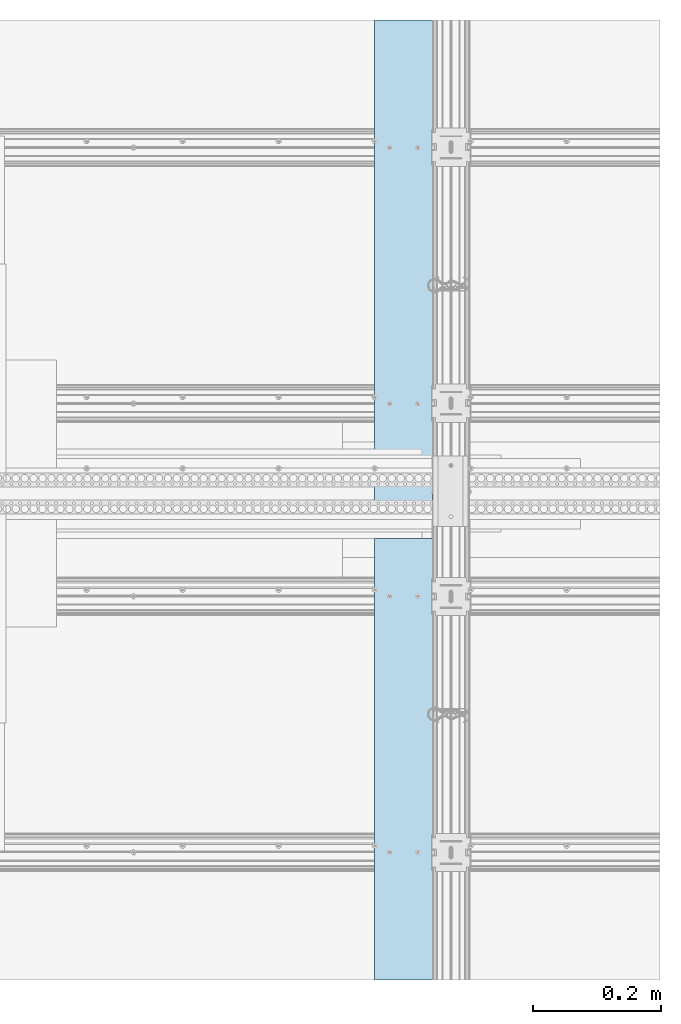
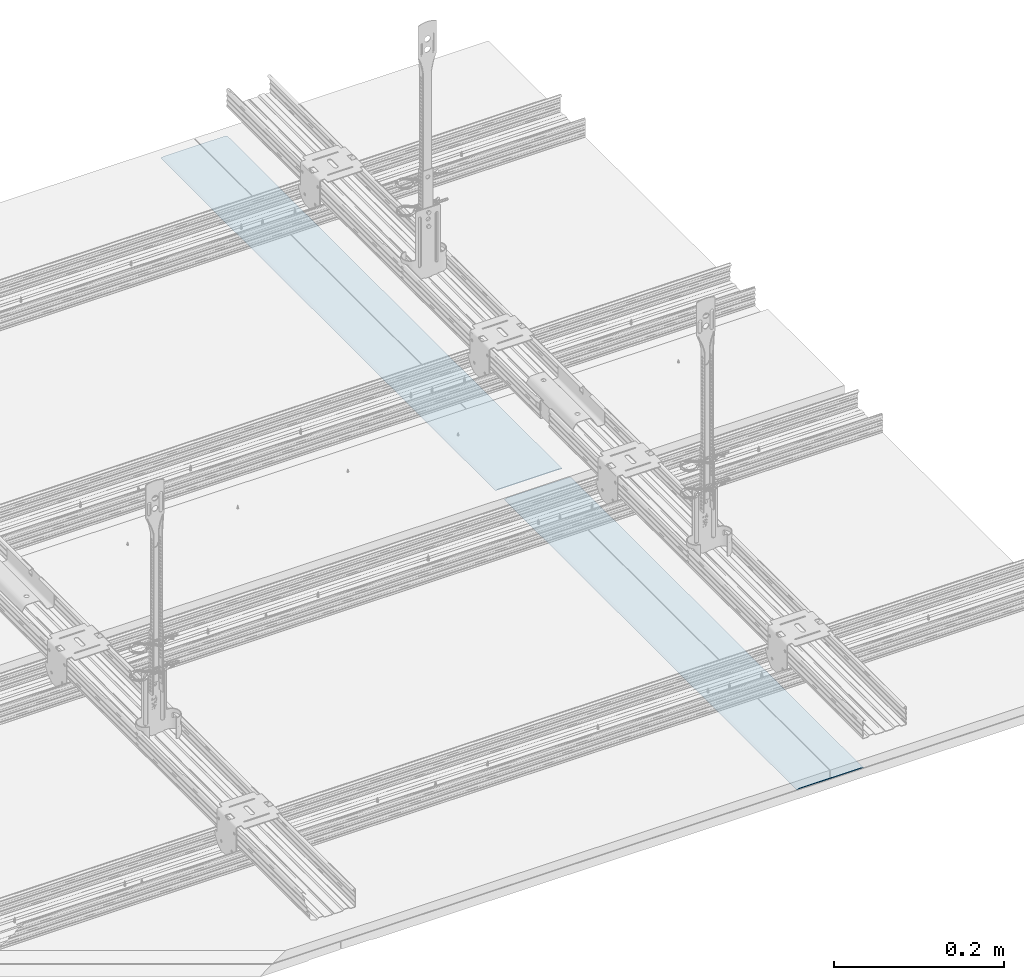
# One storey, part 6 of 73: 2 slabs.
"""IFC2X3 building model written with IfcOpenShell, lengths in millimetres."""

from ifc_helpers import new_model, entity, si_unit, converted_unit, direction, frame, origin, origin_with_axes, place, context, project, spatial, faceted_brep, element, save


model = new_model("IFC2X3")

# Units and contexts
model_context = context("Model", 3, precision=1e-05, world=origin(), true_north=direction((0.0, 1.0, 0.0)))
ifc_project = project(units=[si_unit("LENGTHUNIT", "METRE", prefix="MILLI"), si_unit("AREAUNIT", "SQUARE_METRE"), si_unit("VOLUMEUNIT", "CUBIC_METRE"), converted_unit("PLANEANGLEUNIT", "DEGREE", entity("IfcPlaneAngleMeasure", 0.01745), si_unit("PLANEANGLEUNIT", "RADIAN"), dimensions=[0, 0, 0, 0, 0, 0, 0]), si_unit("SOLIDANGLEUNIT", "STERADIAN"), si_unit("MASSUNIT", "GRAM"), si_unit("TIMEUNIT", "SECOND"), si_unit("THERMODYNAMICTEMPERATUREUNIT", "DEGREE_CELSIUS"), si_unit("LUMINOUSINTENSITYUNIT", "LUMEN")], contexts=[model_context])

# Site, building, storey
site_placement = place(None, origin_with_axes())
site = spatial("IfcSite", under=ifc_project, at=site_placement, Name="Default Site", CompositionType="ELEMENT")
building_placement = place(site_placement, origin_with_axes())
building = spatial("IfcBuilding", under=site, at=building_placement, Name="Default Building", CompositionType="ELEMENT")
storey_placement = place(building_placement, origin_with_axes())
storey = spatial("IfcBuildingStorey", under=building, at=storey_placement, Name="Default Building Storey", CompositionType="ELEMENT", Elevation=0.0)

# Slabs
slab_1_placement = place(storey_placement, frame((3146.626404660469, 1628.544623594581, 981.2852175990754), z_axis=(0.0, 0.0, 1.0), x_axis=(1.0, 0.0, 0.0)))
element("IfcSlab", 1, at=slab_1_placement, inside=storey, Name="Dedykowana masa szpachlowa Rigips - konstrukcyjna", context=model_context, shape_type="Brep", body=[
    faceted_brep([(3.999999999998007, -99.99999999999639, 1.000000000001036), (86.99999999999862, -99.99999999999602, 1.000000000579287), (86.99999999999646, 689.630383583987, 1.000000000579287), (3.999999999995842, 689.630383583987, 1.000000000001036), (90.99999999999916, -99.99999999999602, 5.843872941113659e-10), (90.99999999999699, 689.630383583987, 5.843872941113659e-10), (0.0, -99.99999999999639, 0.0), (-2.165734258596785e-12, 689.630383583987, 0.0)], [[[0, 1, 2, 3]], [[1, 4, 5, 2]], [[4, 6, 7, 5]], [[6, 0, 3, 7]], [[7, 3, 2, 5]], [[0, 6, 4, 1]]]),
])
slab_2_placement = place(storey_placement, frame((3146.626404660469, 818.3409227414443, 981.2852175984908), z_axis=(0.0, 0.0, 1.0), x_axis=(1.0, 0.0, 0.0)))
element("IfcSlab", 2, at=slab_2_placement, inside=storey, Name="Dedykowana masa szpachlowa Rigips - konstrukcyjna", context=model_context, shape_type="Brep", body=[
    faceted_brep([(3.999999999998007, 0.0, 1.000000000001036), (86.99999999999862, 3.609557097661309e-13, 1.000000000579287), (86.99999999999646, 689.630383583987, 1.000000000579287), (3.999999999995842, 689.630383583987, 1.000000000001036), (90.99999999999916, 3.609557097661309e-13, 5.843872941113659e-10), (90.99999999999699, 689.630383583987, 5.843872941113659e-10), (0.0, 0.0, 0.0), (-2.165734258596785e-12, 689.630383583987, 0.0)], [[[0, 1, 2, 3]], [[1, 4, 5, 2]], [[4, 6, 7, 5]], [[6, 0, 3, 7]], [[7, 3, 2, 5]], [[0, 6, 4, 1]]]),
])

save(model, "model.ifc")
